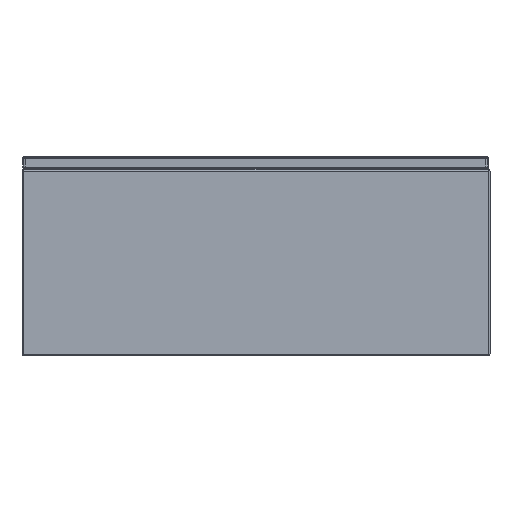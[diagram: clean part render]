
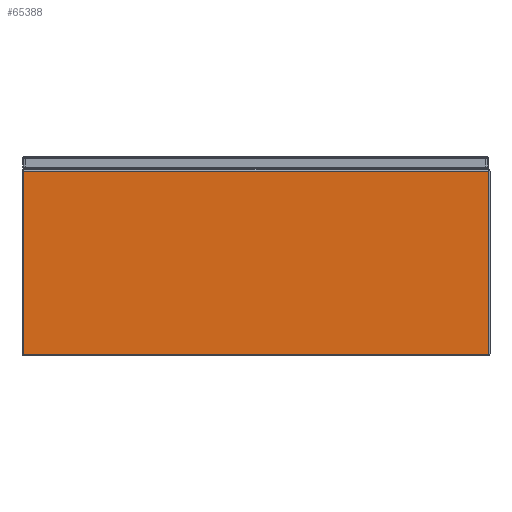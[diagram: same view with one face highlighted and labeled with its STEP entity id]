
A CAD part, front view. The second image highlights one B-rep face of the part: STEP entity #65388.
In plain terms, the highlighted planar face has unit normal (0, -1, 0).
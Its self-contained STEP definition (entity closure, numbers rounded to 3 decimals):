
#15284 = VECTOR ( 'NONE', #19904, 39.37 ) ;
#15286 = VECTOR ( 'NONE', #19887, 39.37 ) ;
#15288 = LINE ( 'NONE', #19906, #15295 ) ;
#15289 = LINE ( 'NONE', #19883, #15286 ) ;
#15290 = LINE ( 'NONE', #19890, #15293 ) ;
#15291 = LINE ( 'NONE', #19901, #15284 ) ;
#15293 = VECTOR ( 'NONE', #19909, 39.37 ) ;
#15295 = VECTOR ( 'NONE', #19914, 39.37 ) ;
#19675 = CARTESIAN_POINT ( 'NONE',  ( -14.921, 0., 0.08 ) ) ;
#19785 = CARTESIAN_POINT ( 'NONE',  ( 14.921, 0., 11.838 ) ) ;
#19883 = CARTESIAN_POINT ( 'NONE',  ( 15., 0., 11.838 ) ) ;
#19887 = DIRECTION ( 'NONE',  ( -1., 0., 0. ) ) ;
#19890 = CARTESIAN_POINT ( 'NONE',  ( 15., 0., 0.08 ) ) ;
#19901 = CARTESIAN_POINT ( 'NONE',  ( 14.921, 0., 0.08 ) ) ;
#19904 = DIRECTION ( 'NONE',  ( 0., 0., -1. ) ) ;
#19906 = CARTESIAN_POINT ( 'NONE',  ( -14.921, 0., 12.569 ) ) ;
#19909 = DIRECTION ( 'NONE',  ( -1., 0., 0. ) ) ;
#19914 = DIRECTION ( 'NONE',  ( 0., 0., -1. ) ) ;
#21163 = CARTESIAN_POINT ( 'NONE',  ( -14.921, 0., 11.838 ) ) ;
#22285 = CARTESIAN_POINT ( 'NONE',  ( 14.921, 0., 0.08 ) ) ;
#33112 = FACE_OUTER_BOUND ( 'NONE', #67876, .T. ) ;
#39774 = VERTEX_POINT ( 'NONE', #19675 ) ;
#39884 = VERTEX_POINT ( 'NONE', #19785 ) ;
#40681 = VERTEX_POINT ( 'NONE', #21163 ) ;
#40775 = VERTEX_POINT ( 'NONE', #22285 ) ;
#44480 = ORIENTED_EDGE ( 'NONE', *, *, #68566, .T. ) ;
#44483 = ORIENTED_EDGE ( 'NONE', *, *, #68570, .T. ) ;
#44489 = ORIENTED_EDGE ( 'NONE', *, *, #68569, .F. ) ;
#44490 = ORIENTED_EDGE ( 'NONE', *, *, #68568, .F. ) ;
#54823 = PLANE ( 'NONE',  #70630 ) ;
#54826 = CARTESIAN_POINT ( 'NONE',  ( 15., 0., 0.08 ) ) ;
#54834 = DIRECTION ( 'NONE',  ( 0., -1., 0. ) ) ;
#54835 = DIRECTION ( 'NONE',  ( 0., 0., -1. ) ) ;
#65388 = ADVANCED_FACE ( 'NONE', ( #33112 ), #54823, .T. ) ;
#67876 = EDGE_LOOP ( 'NONE', ( #44489, #44490, #44480, #44483 ) ) ;
#68566 = EDGE_CURVE ( 'NONE', #39884, #40681, #15289, .T. ) ;
#68568 = EDGE_CURVE ( 'NONE', #39884, #40775, #15291, .T. ) ;
#68569 = EDGE_CURVE ( 'NONE', #40775, #39774, #15290, .T. ) ;
#68570 = EDGE_CURVE ( 'NONE', #40681, #39774, #15288, .T. ) ;
#70630 = AXIS2_PLACEMENT_3D ( 'NONE', #54826, #54834, #54835 ) ;
